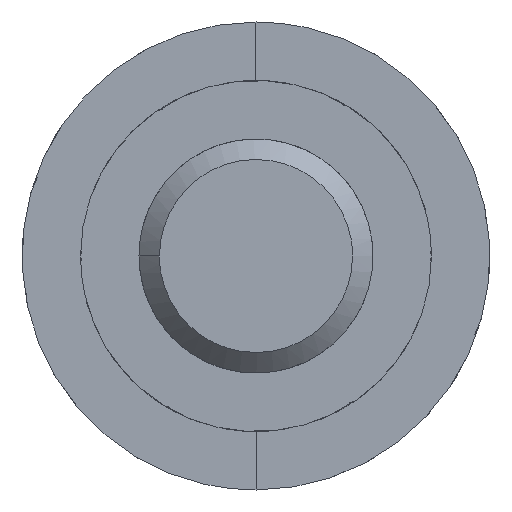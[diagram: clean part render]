
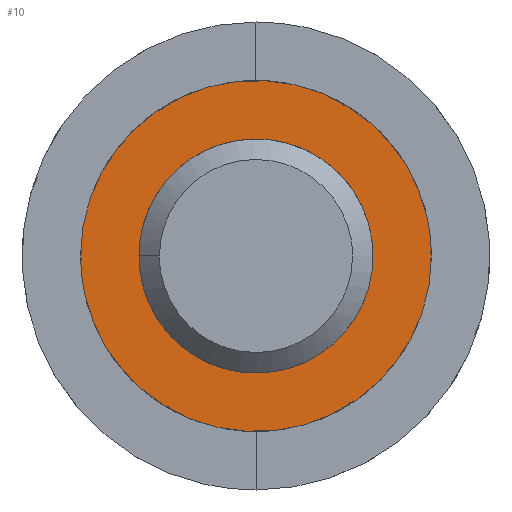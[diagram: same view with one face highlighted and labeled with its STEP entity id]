
A CAD part, left-side view. The second image highlights one B-rep face of the part: STEP entity #10.
In plain terms, the highlighted planar face has unit normal (-1, 0, 0).
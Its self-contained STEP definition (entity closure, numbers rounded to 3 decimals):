
#10 = ADVANCED_FACE ( 'NONE', ( #1366, #1348 ), #755, .F. ) ;
#626 = VERTEX_POINT ( 'NONE', #948 ) ;
#627 = VERTEX_POINT ( 'NONE', #949 ) ;
#655 = VERTEX_POINT ( 'NONE', #954 ) ;
#660 = VERTEX_POINT ( 'NONE', #956 ) ;
#754 = CARTESIAN_POINT ( 'NONE',  ( -32.5, -44.2, -101.2 ) ) ;
#755 = PLANE ( 'NONE',  #1318 ) ;
#756 = DIRECTION ( 'NONE',  ( 1., 0., 0. ) ) ;
#757 = DIRECTION ( 'NONE',  ( 0., 1., 0. ) ) ;
#948 = CARTESIAN_POINT ( 'NONE',  ( -32.5, -31., -94. ) ) ;
#949 = CARTESIAN_POINT ( 'NONE',  ( -32.5, -43., -94. ) ) ;
#954 = CARTESIAN_POINT ( 'NONE',  ( -32.5, -41., -94. ) ) ;
#956 = CARTESIAN_POINT ( 'NONE',  ( -32.5, -33., -94. ) ) ;
#962 = CARTESIAN_POINT ( 'NONE',  ( -32.5, -33., -94. ) ) ;
#963 = CARTESIAN_POINT ( 'NONE',  ( -32.5, -43., -94. ) ) ;
#966 = CARTESIAN_POINT ( 'NONE',  ( -32.5, -43., -97.314 ) ) ;
#967 = CARTESIAN_POINT ( 'NONE',  ( -32.5, -40.314, -100. ) ) ;
#968 = CARTESIAN_POINT ( 'NONE',  ( -32.5, -37., -100. ) ) ;
#969 = CARTESIAN_POINT ( 'NONE',  ( -32.5, -33.686, -100. ) ) ;
#970 = CARTESIAN_POINT ( 'NONE',  ( -32.5, -31., -97.314 ) ) ;
#971 = CARTESIAN_POINT ( 'NONE',  ( -32.5, -31., -94. ) ) ;
#973 = CARTESIAN_POINT ( 'NONE',  ( -32.5, -33., -91.791 ) ) ;
#974 = CARTESIAN_POINT ( 'NONE',  ( -32.5, -34.791, -90. ) ) ;
#975 = CARTESIAN_POINT ( 'NONE',  ( -32.5, -37., -90. ) ) ;
#976 = CARTESIAN_POINT ( 'NONE',  ( -32.5, -39.209, -90. ) ) ;
#977 = CARTESIAN_POINT ( 'NONE',  ( -32.5, -41., -91.791 ) ) ;
#978 = CARTESIAN_POINT ( 'NONE',  ( -32.5, -41., -94. ) ) ;
#1006 = CARTESIAN_POINT ( 'NONE',  ( -32.5, -41., -94. ) ) ;
#1047 = CARTESIAN_POINT ( 'NONE',  ( -32.5, -41., -96.209 ) ) ;
#1048 = CARTESIAN_POINT ( 'NONE',  ( -32.5, -39.209, -98. ) ) ;
#1049 = CARTESIAN_POINT ( 'NONE',  ( -32.5, -37., -98. ) ) ;
#1050 = CARTESIAN_POINT ( 'NONE',  ( -32.5, -34.791, -98. ) ) ;
#1051 = CARTESIAN_POINT ( 'NONE',  ( -32.5, -33., -96.209 ) ) ;
#1052 = CARTESIAN_POINT ( 'NONE',  ( -32.5, -33., -94. ) ) ;
#1092 = CARTESIAN_POINT ( 'NONE',  ( -32.5, -31., -94. ) ) ;
#1097 = CARTESIAN_POINT ( 'NONE',  ( -32.5, -31., -90.686 ) ) ;
#1098 = CARTESIAN_POINT ( 'NONE',  ( -32.5, -33.686, -88. ) ) ;
#1099 = CARTESIAN_POINT ( 'NONE',  ( -32.5, -37., -88. ) ) ;
#1100 = CARTESIAN_POINT ( 'NONE',  ( -32.5, -40.314, -88. ) ) ;
#1101 = CARTESIAN_POINT ( 'NONE',  ( -32.5, -43., -90.686 ) ) ;
#1102 = CARTESIAN_POINT ( 'NONE',  ( -32.5, -43., -94. ) ) ;
#1238 = ORIENTED_EDGE ( 'NONE', *, *, #1298, .T. ) ;
#1249 = EDGE_LOOP ( 'NONE', ( #1238, #1259 ) ) ;
#1252 = EDGE_LOOP ( 'NONE', ( #1260, #1263 ) ) ;
#1259 = ORIENTED_EDGE ( 'NONE', *, *, #1305, .T. ) ;
#1260 = ORIENTED_EDGE ( 'NONE', *, *, #1297, .F. ) ;
#1263 = ORIENTED_EDGE ( 'NONE', *, *, #1309, .F. ) ;
#1297 = EDGE_CURVE ( 'NONE', #627, #626, #1376, .T. ) ;
#1298 = EDGE_CURVE ( 'NONE', #660, #655, #1381, .T. ) ;
#1305 = EDGE_CURVE ( 'NONE', #655, #660, #1386, .T. ) ;
#1309 = EDGE_CURVE ( 'NONE', #626, #627, #1389, .T. ) ;
#1318 = AXIS2_PLACEMENT_3D ( 'NONE', #754, #756, #757 ) ;
#1348 = FACE_OUTER_BOUND ( 'NONE', #1252, .T. ) ;
#1366 = FACE_BOUND ( 'NONE', #1249, .T. ) ;
#1376 = B_SPLINE_CURVE_WITH_KNOTS ( 'NONE', 3,
 ( #963, #966, #967, #968, #969, #970, #971 ),
 .UNSPECIFIED., .F., .F.,
 ( 4, 3, 4 ),
 ( -0.012, -0.002, 0.007 ),
 .UNSPECIFIED. ) ;
#1381 = B_SPLINE_CURVE_WITH_KNOTS ( 'NONE', 3,
 ( #962, #973, #974, #975, #976, #977, #978 ),
 .UNSPECIFIED., .F., .F.,
 ( 4, 3, 4 ),
 ( 0.015, 0.021, 0.027 ),
 .UNSPECIFIED. ) ;
#1386 = B_SPLINE_CURVE_WITH_KNOTS ( 'NONE', 3,
 ( #1006, #1047, #1048, #1049, #1050, #1051, #1052 ),
 .UNSPECIFIED., .F., .F.,
 ( 4, 3, 4 ),
 ( 0.002, 0.008, 0.015 ),
 .UNSPECIFIED. ) ;
#1389 = B_SPLINE_CURVE_WITH_KNOTS ( 'NONE', 3,
 ( #1092, #1097, #1098, #1099, #1100, #1101, #1102 ),
 .UNSPECIFIED., .F., .F.,
 ( 4, 3, 4 ),
 ( -0.014, -0.005, 0.005 ),
 .UNSPECIFIED. ) ;
